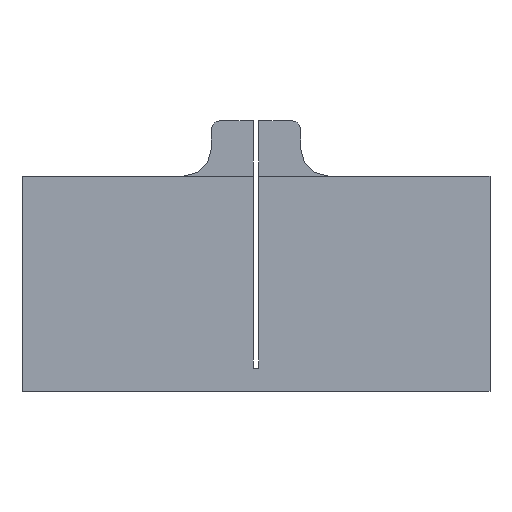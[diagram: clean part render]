
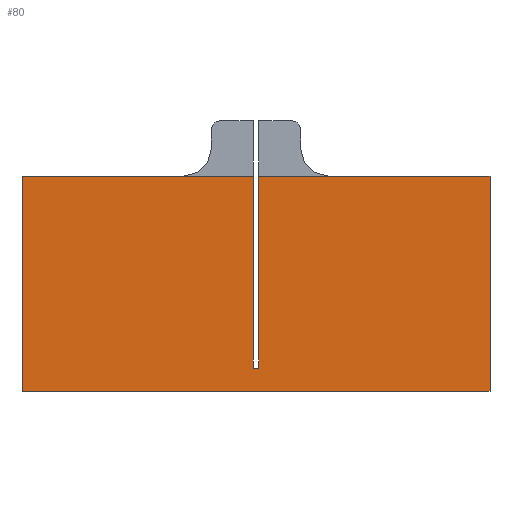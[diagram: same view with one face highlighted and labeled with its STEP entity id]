
A CAD part, front view. The second image highlights one B-rep face of the part: STEP entity #80.
In plain terms, the highlighted planar face has unit normal (0, -1, 0).
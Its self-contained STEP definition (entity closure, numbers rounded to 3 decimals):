
#80=ADVANCED_FACE('',(#140),#901,.T.);
#140=FACE_OUTER_BOUND('',#201,.T.);
#201=EDGE_LOOP('',(#335,#336,#337,#338,#339,#340,#341,#342));
#335=ORIENTED_EDGE('',*,*,#622,.T.);
#336=ORIENTED_EDGE('',*,*,#623,.T.);
#337=ORIENTED_EDGE('',*,*,#621,.T.);
#338=ORIENTED_EDGE('',*,*,#585,.F.);
#339=ORIENTED_EDGE('',*,*,#580,.F.);
#340=ORIENTED_EDGE('',*,*,#583,.T.);
#341=ORIENTED_EDGE('',*,*,#584,.T.);
#342=ORIENTED_EDGE('',*,*,#637,.F.);
#580=EDGE_CURVE('',#805,#806,#729,.T.);
#583=EDGE_CURVE('',#805,#808,#732,.T.);
#584=EDGE_CURVE('',#808,#809,#733,.T.);
#585=EDGE_CURVE('',#806,#831,#734,.T.);
#621=EDGE_CURVE('',#830,#831,#756,.T.);
#622=EDGE_CURVE('',#832,#833,#757,.T.);
#623=EDGE_CURVE('',#833,#830,#758,.T.);
#637=EDGE_CURVE('',#832,#809,#772,.T.);
#729=B_SPLINE_CURVE_WITH_KNOTS('',1,(#1647,#1648),.UNSPECIFIED.,.F.,.F.,
(2,2),(0.,46.),.UNSPECIFIED.);
#732=B_SPLINE_CURVE_WITH_KNOTS('',1,(#1653,#1654),.UNSPECIFIED.,.F.,.F.,
(2,2),(40.,140.),.UNSPECIFIED.);
#733=B_SPLINE_CURVE_WITH_KNOTS('',1,(#1655,#1656),.UNSPECIFIED.,.F.,.F.,
(2,2),(0.,46.),.UNSPECIFIED.);
#734=B_SPLINE_CURVE_WITH_KNOTS('',1,(#1657,#1658),.UNSPECIFIED.,.F.,.F.,
(2,2),(40.,89.4),.UNSPECIFIED.);
#756=B_SPLINE_CURVE_WITH_KNOTS('',1,(#1739,#1740),.UNSPECIFIED.,.F.,.F.,
(2,2),(-41.,0.),.UNSPECIFIED.);
#757=B_SPLINE_CURVE_WITH_KNOTS('',1,(#1741,#1742),.UNSPECIFIED.,.F.,.F.,
(2,2),(1.2,42.2),.UNSPECIFIED.);
#758=B_SPLINE_CURVE_WITH_KNOTS('',1,(#1743,#1744),.UNSPECIFIED.,.F.,.F.,
(2,2),(42.2,43.4),.UNSPECIFIED.);
#772=B_SPLINE_CURVE_WITH_KNOTS('',1,(#1771,#1772),.UNSPECIFIED.,.F.,.F.,
(2,2),(90.6,140.),.UNSPECIFIED.);
#805=VERTEX_POINT('',#1594);
#806=VERTEX_POINT('',#1595);
#808=VERTEX_POINT('',#1597);
#809=VERTEX_POINT('',#1598);
#830=VERTEX_POINT('',#1619);
#831=VERTEX_POINT('',#1620);
#832=VERTEX_POINT('',#1621);
#833=VERTEX_POINT('',#1622);
#901=PLANE('',#1197);
#1197=AXIS2_PLACEMENT_3D('',#1564,#1315,$);
#1315=DIRECTION('',(0.,-1.,0.));
#1564=CARTESIAN_POINT('',(-1500.348,-3.37,1422.157));
#1594=CARTESIAN_POINT('',(-1500.348,-3.37,1422.157));
#1595=CARTESIAN_POINT('',(-1500.348,-3.37,1468.157));
#1597=CARTESIAN_POINT('',(-1400.348,-3.37,1422.157));
#1598=CARTESIAN_POINT('',(-1400.348,-3.37,1468.157));
#1619=CARTESIAN_POINT('',(-1450.948,-3.37,1427.157));
#1620=CARTESIAN_POINT('',(-1450.948,-3.37,1468.157));
#1621=CARTESIAN_POINT('',(-1449.748,-3.37,1468.157));
#1622=CARTESIAN_POINT('',(-1449.748,-3.37,1427.157));
#1647=CARTESIAN_POINT('',(-1500.348,-3.37,1422.157));
#1648=CARTESIAN_POINT('',(-1500.348,-3.37,1468.157));
#1653=CARTESIAN_POINT('',(-1500.348,-3.37,1422.157));
#1654=CARTESIAN_POINT('',(-1400.348,-3.37,1422.157));
#1655=CARTESIAN_POINT('',(-1400.348,-3.37,1422.157));
#1656=CARTESIAN_POINT('',(-1400.348,-3.37,1468.157));
#1657=CARTESIAN_POINT('',(-1500.348,-3.37,1468.157));
#1658=CARTESIAN_POINT('',(-1450.948,-3.37,1468.157));
#1739=CARTESIAN_POINT('',(-1450.948,-3.37,1427.157));
#1740=CARTESIAN_POINT('',(-1450.948,-3.37,1468.157));
#1741=CARTESIAN_POINT('',(-1449.748,-3.37,1468.157));
#1742=CARTESIAN_POINT('',(-1449.748,-3.37,1427.157));
#1743=CARTESIAN_POINT('',(-1449.748,-3.37,1427.157));
#1744=CARTESIAN_POINT('',(-1450.948,-3.37,1427.157));
#1771=CARTESIAN_POINT('',(-1449.748,-3.37,1468.157));
#1772=CARTESIAN_POINT('',(-1400.348,-3.37,1468.157));
